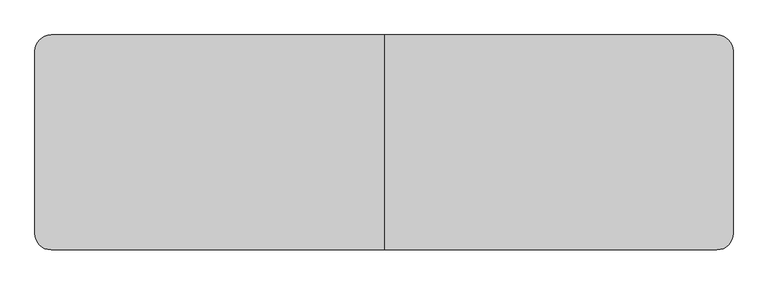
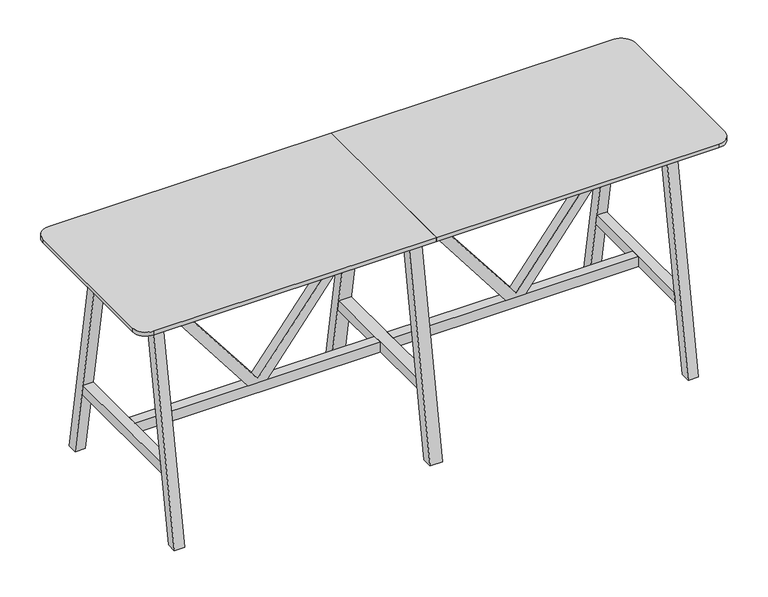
"""IFC4 building model written with IfcOpenShell, lengths in millimetres: furniture geometry, BDG_BossDesign_Tbls_AgentTables6Legs : AGE-HT-6L-2600-800-3D."""

from ifc_helpers import new_model, si_unit, point, frame, frame_2d, origin, place, context, project, spatial, polyline, circle_curve, trimmed, segment, composite_curve, outline, extrude, source, transform, mapped, element, save


def furniture_7d9a73d7(model_context):
    return source(origin(), model_context, "Body", "SweptSolid", [
        extrude(outline(polyline([(345.0, 524.0823957), (345.0, 608.4176043), (992.0, 1105.0), (1032.0, 1105.0), (1032.0, 1085.0), (365.0, 566.25), (1032.0, 47.5), (1032.0, 27.5), (992.0, 27.5), (345.0, 524.0823957)])), frame((0.0, -22.5000305, 0.0), z_axis=(0.0, 1.0, 0.0), x_axis=(0.0, 0.0, 1.0)), (0.0, 0.0, 1.0), 45.000061),
        extrude(outline(polyline([(345.0, -524.0823957), (992.0, -27.5), (1032.0, -27.5), (1032.0, -47.5), (365.0, -566.25), (1032.0, -1085.0), (1032.0, -1105.0), (992.0, -1105.0), (345.0, -608.4176043), (345.0, -524.0823957)])), frame((0.0, -22.5000305, 0.0), z_axis=(0.0, 1.0, 0.0), x_axis=(0.0, 0.0, 1.0)), (0.0, 0.0, 1.0), 45.000061),
        extrude(outline(polyline([(400.0, 0.0), (354.9999949, 0.0), (185.5, 970.0), (230.5000051, 970.0), (400.0, 0.0)])), frame((-27.5, 0.0, 0.0), z_axis=(1.0, 0.0, 0.0), x_axis=(0.0, 1.0, 0.0)), (0.0, 0.0, 1.0), 55.0),
        extrude(outline(polyline([(-400.0, 0.0), (-230.5000051, 970.0), (-185.5, 970.0), (-354.9999949, 0.0), (-400.0, 0.0)])), frame((-27.5, 0.0, 0.0), z_axis=(1.0, 0.0, 0.0), x_axis=(0.0, 1.0, 0.0)), (0.0, 0.0, 1.0), 55.0),
        extrude(outline(polyline([(302.5773161, 300.0), (-302.5773161, 300.0), (-294.7139143, 345.0), (294.7139143, 345.0), (302.5773161, 300.0)])), frame((-27.5, 0.0, 0.0), z_axis=(1.0, 0.0, 0.0), x_axis=(0.0, 1.0, 0.0)), (0.0, 0.0, 1.0), 55.0),
        extrude(outline(composite_curve([segment(polyline([(0.0, 400.0), (0.0, -400.0), (-1240.0, -400.0)]), True, "CONTINUOUS"), segment(trimmed(circle_curve(frame_2d((-1240.0, -340.0)), 60.0), [point((-1240.0, -400.0))], [point((-1300.0, -340.0))], False, "CARTESIAN"), True, "CONTINUOUS"), segment(polyline([(-1300.0, -340.0), (-1300.0, 340.0)]), True, "CONTINUOUS"), segment(trimmed(circle_curve(frame_2d((-1240.0, 340.0)), 60.0), [point((-1300.0, 340.0))], [point((-1240.0, 400.0))], False, "CARTESIAN"), True, "CONTINUOUS"), segment(polyline([(-1240.0, 400.0), (0.0, 400.0)]), True, "CONTINUOUS")], self_intersect=False)), frame((0.0, 0.0, 1032.0), z_axis=(0.0, 0.0, 1.0), x_axis=(1.0, 0.0, 0.0)), (0.0, 0.0, 1.0), 18.0),
        extrude(outline(polyline([(-294.7139143, 345.0), (294.7139143, 345.0), (302.5773161, 300.0), (-302.5773161, 300.0), (-294.7139143, 345.0)])), frame((1105.0, 0.0, 0.0), z_axis=(1.0, 0.0, 0.0), x_axis=(0.0, 1.0, 0.0)), (0.0, 0.0, 1.0), 45.0),
        extrude(outline(polyline([(400.0, 0.0), (354.9999949, 0.0), (185.5, 970.0), (230.5000051, 970.0), (400.0, 0.0)])), frame((-1150.0, 0.0, 0.0), z_axis=(1.0, 0.0, 0.0), x_axis=(0.0, 1.0, 0.0)), (0.0, 0.0, 1.0), 45.0),
        extrude(outline(polyline([(-400.0, 0.0), (-230.5000051, 970.0), (-185.5, 970.0), (-354.9999949, 0.0), (-400.0, 0.0)])), frame((-1150.0, 0.0, 0.0), z_axis=(1.0, 0.0, 0.0), x_axis=(0.0, 1.0, 0.0)), (0.0, 0.0, 1.0), 45.0),
        extrude(outline(polyline([(-294.7139143, 345.0), (294.7139143, 345.0), (302.5773161, 300.0), (-302.5773161, 300.0), (-294.7139143, 345.0)])), frame((-1150.0, 0.0, 0.0), z_axis=(1.0, 0.0, 0.0), x_axis=(0.0, 1.0, 0.0)), (0.0, 0.0, 1.0), 45.0),
        extrude(outline(polyline([(-226.6006165, 944.973938), (-204.2770691, 1032.0), (-179.5, 1032.0), (-201.8235474, 944.973938), (-226.6006165, 944.973938)])), frame((-1105.0, 0.0, 0.0), z_axis=(1.0, 0.0, 0.0), x_axis=(0.0, 1.0, 0.0)), (0.0, 0.0, 1.0), 2210.0),
        extrude(outline(polyline([(226.6006165, 944.973938), (201.8235474, 944.973938), (179.5, 1032.0), (204.2770691, 1032.0), (226.6006165, 944.973938)])), frame((-1105.0, 0.0, 0.0), z_axis=(1.0, 0.0, 0.0), x_axis=(0.0, 1.0, 0.0)), (0.0, 0.0, 1.0), 2210.0),
        extrude(outline(polyline([(399.7999878, 0.0), (354.7999827, 0.0), (185.5, 970.0), (230.5000051, 970.0), (399.7999878, 0.0)])), frame((1105.0, 0.0, 0.0), z_axis=(1.0, 0.0, 0.0), x_axis=(0.0, 1.0, 0.0)), (0.0, 0.0, 1.0), 45.0),
        extrude(outline(polyline([(-399.7999878, 0.0), (-230.5000051, 970.0), (-185.5, 970.0), (-354.7999827, 0.0), (-399.7999878, 0.0)])), frame((1105.0, 0.0, 0.0), z_axis=(1.0, 0.0, 0.0), x_axis=(0.0, 1.0, 0.0)), (0.0, 0.0, 1.0), 45.0),
        extrude(outline(polyline([(-27.5, 22.5000305), (-27.5, -22.5000305), (-1105.0, -22.5000305), (-1105.0, 22.5000305), (-27.5, 22.5000305)])), frame((0.0, 0.0, 300.0), z_axis=(0.0, 0.0, 1.0), x_axis=(1.0, 0.0, 0.0)), (0.0, 0.0, 1.0), 45.0),
        extrude(outline(polyline([(27.5, -22.5000305), (27.5, 22.5000305), (1105.0, 22.5000305), (1105.0, -22.5000305), (27.5, -22.5000305)])), frame((0.0, 0.0, 300.0), z_axis=(0.0, 0.0, 1.0), x_axis=(1.0, 0.0, 0.0)), (0.0, 0.0, 1.0), 45.0),
        extrude(outline(composite_curve([segment(trimmed(circle_curve(frame_2d((1240.0, 340.0)), 60.0), [point((1240.0, 400.0))], [point((1300.0, 340.0))], False, "CARTESIAN"), True, "CONTINUOUS"), segment(polyline([(1300.0, 340.0), (1300.0, -340.0)]), True, "CONTINUOUS"), segment(trimmed(circle_curve(frame_2d((1240.0, -340.0)), 60.0), [point((1300.0, -340.0))], [point((1240.0, -400.0))], False, "CARTESIAN"), True, "CONTINUOUS"), segment(polyline([(1240.0, -400.0), (0.0, -400.0), (0.0, 400.0), (1240.0, 400.0)]), True, "CONTINUOUS")], self_intersect=False)), frame((0.0, 0.0, 1032.0), z_axis=(0.0, 0.0, 1.0), x_axis=(1.0, 0.0, 0.0)), (0.0, 0.0, 1.0), 18.0),
    ])


if __name__ == "__main__":
    model = new_model("IFC4")
    model_context = context("Model", 3, world=origin())
    ifc_project = project(units=[si_unit("LENGTHUNIT", "METRE", prefix="MILLI")], contexts=[model_context])
    site = spatial("IfcSite", under=ifc_project)
    building = spatial("IfcBuilding", under=site)
    placement = place(None, origin())
    furniture_shape = furniture_7d9a73d7(model_context)
    element("IfcFurniture", 1, ObjectType="BDG_BossDesign_Tbls_AgentTables6Legs : AGE-HT-6L-2600-800-3D", at=placement, inside=building, context=model_context, shape_type="MappedRepresentation", body=[
        mapped(furniture_shape, transform((0.0, 0.0, 0.0), x_axis=(1.0, 0.0, 0.0), y_axis=(0.0, 1.0, 0.0), z_axis=(0.0, 0.0, 1.0))),
    ])
    save(model, "model.ifc")
